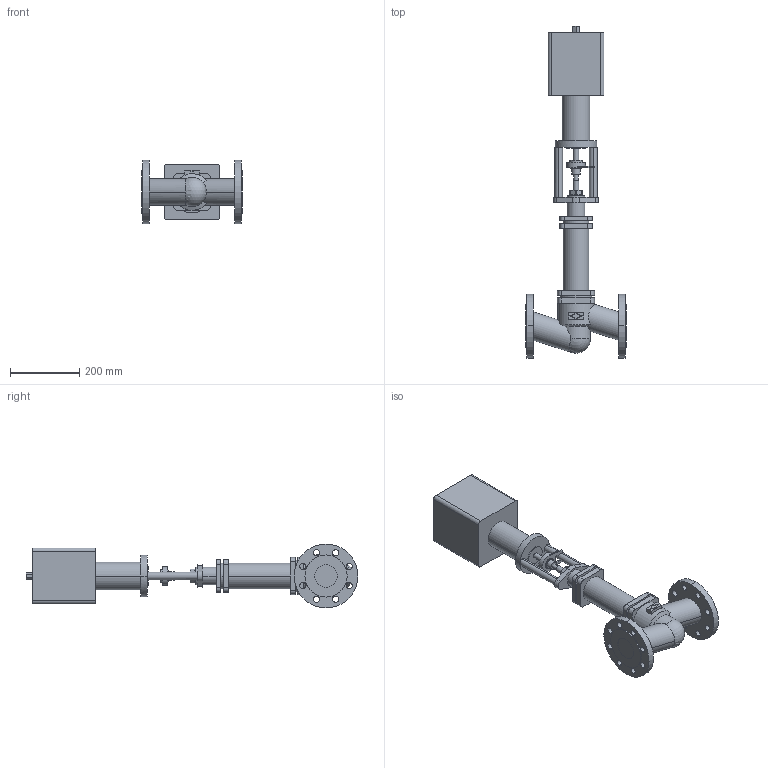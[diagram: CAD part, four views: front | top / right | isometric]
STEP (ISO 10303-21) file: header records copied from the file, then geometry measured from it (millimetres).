
FILE_DESCRIPTION( ( '' ), '1' );
FILE_NAME( 'F:/DE-SHS/TB/OR/04-Sonstiges/daten/files_3d/441-FR2.2/441-PN40-FR2_2/c000004569.stp', '2014-11-06T11:31:13', ( '' ), ( '' ), ' ', ' ', ' ' );
FILE_SCHEMA( ( 'CONFIG_CONTROL_DESIGN' ) );
Length unit declared in the file: millimetre
Products named in the file (2): 1; 2
Bounding box: 290 x 961 x 185 mm (x, y, z)
Volume: 10257597.5 mm3; surface area: 597452.8 mm2
Topology: 2 solids, 2 shells, 218 faces, 545 edges, 361 vertices
Faces by surface type: cylinder 118, plane 97, cone 2, sphere 1
Entity records: 7243 total; most frequent: CARTESIAN_POINT 1652, DIRECTION 1217, ORIENTED_EDGE 1086, EDGE_CURVE 543, AXIS2_PLACEMENT_3D 468, VERTEX_POINT 361, EDGE_LOOP 282, LINE 281
